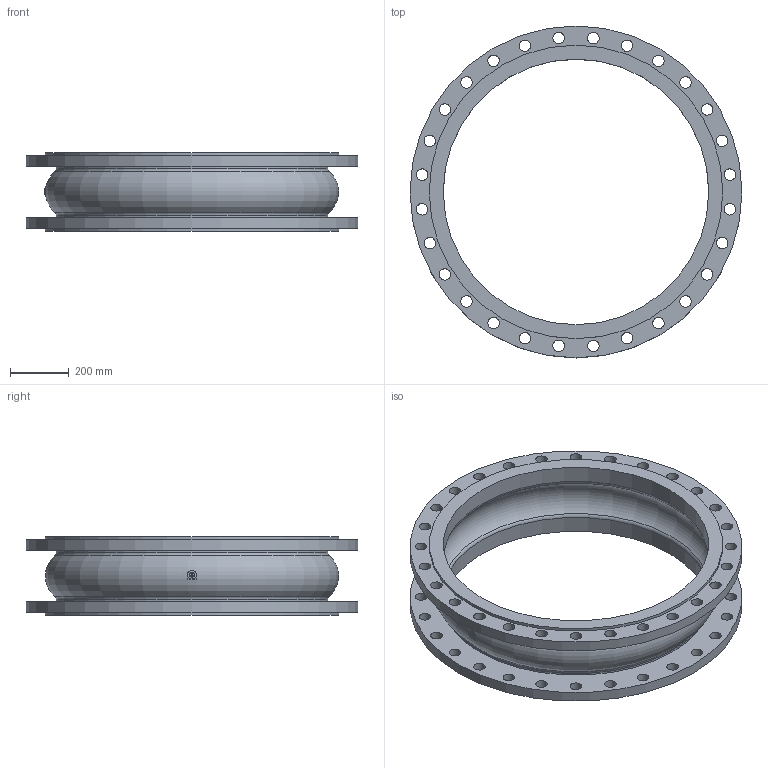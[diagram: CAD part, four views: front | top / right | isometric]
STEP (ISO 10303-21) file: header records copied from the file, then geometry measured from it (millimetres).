
FILE_DESCRIPTION(('STEP AP203'), '1');
FILE_NAME('Êîìïåíñàòîð KMS DN900 PN16', '', ('UNSPECIFIED'), ('UNSPECIFIED'), 'ASCON STEP Converter 1.6', 'ASCON Math Kernel', '');
FILE_SCHEMA(('CONFIG_CONTROL_DESIGN'));
Length unit declared in the file: millimetre
Bounding box: 1125 x 1125 x 265 mm (x, y, z)
Volume: 32082804.2 mm3; surface area: 3233497.5 mm2
Topology: 1 solids, 1 shells, 93 faces, 244 edges, 160 vertices
Faces by surface type: cylinder 71, plane 13, torus 9
Full cylindrical faces by diameter (mm): 39 x56, 900 x2, 920 x2, 995 x2, 1125 x2
Entity records: 4558 total; most frequent: CARTESIAN_POINT 1441, DIRECTION 478, ORIENTED_EDGE 348, EDGE_LOOP 284, AXIS2_PLACEMENT_3D 232, EDGE_CURVE 174, VERTEX_POINT 160, FACE_BOUND 144
